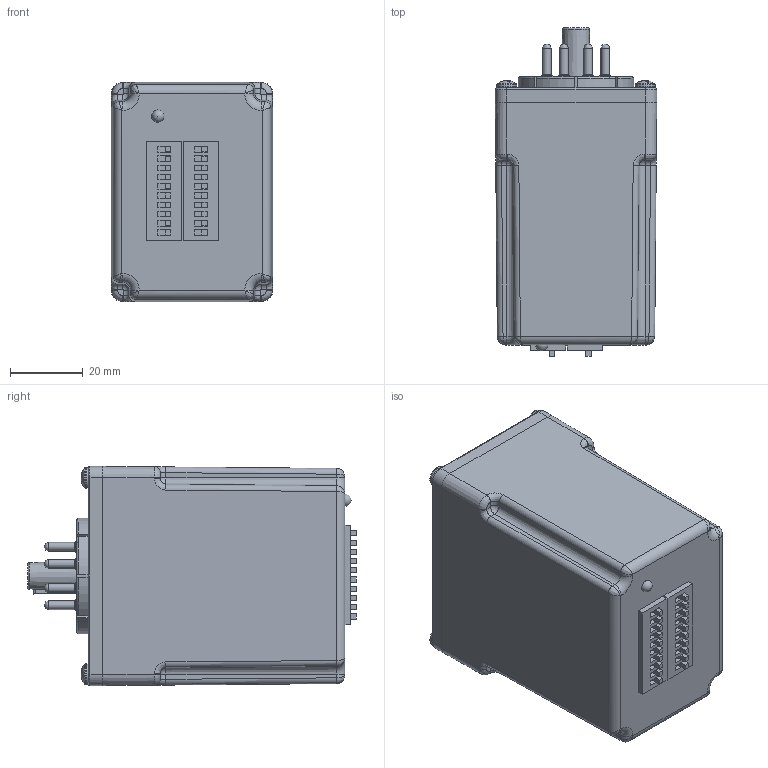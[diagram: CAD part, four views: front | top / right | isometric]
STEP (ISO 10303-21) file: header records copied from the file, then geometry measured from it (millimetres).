
FILE_DESCRIPTION(('FreeCAD Model'),'2;1');
FILE_NAME('Open CASCADE Shape Model','2023-06-06T13:39:46',(''),(''), 'Open CASCADE STEP processor 7.6','FreeCAD','Unknown');
FILE_SCHEMA(('AUTOMOTIVE_DESIGN { 1 0 10303 214 1 1 1 1 }'));
Products named in the file (1): Compound
Bounding box: 44.45 x 90.37 x 60.33 mm (x, y, z)
Surface area: 45460.5 mm2 (no closed solid volume)
Topology: 0 solids, 41 shells, 2079 faces, 5236 edges, 3269 vertices
Faces by surface type: plane 922, cylinder 682, bspline 200, torus 121, cone 57, sphere 57, revolution 40
Full cylindrical faces by diameter (mm): 0.254 x16, 1.257 x8, 1.714 x8, 1.905 x16, 2.362 x16, 2.464 x8, 3.175 x4, 4.191 x8, 7.925 x1
Entity records: 186920 total; most frequent: CARTESIAN_POINT 87172, DIRECTION 17172, LINE 10559, VECTOR 10559, ORIENTED_EDGE 10326, PCURVE 10326, DEFINITIONAL_REPRESENTATION 10326, EDGE_CURVE 5171
